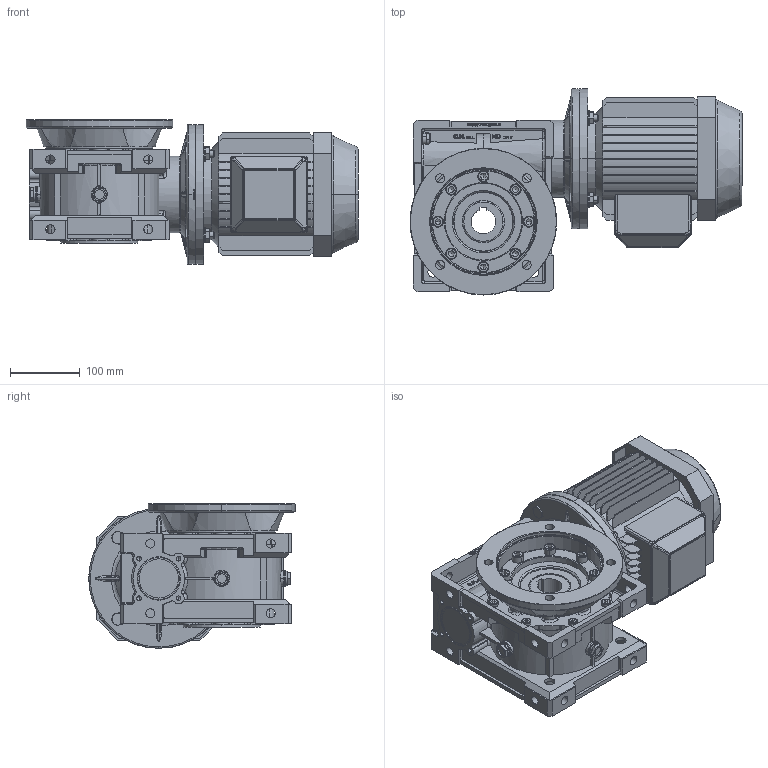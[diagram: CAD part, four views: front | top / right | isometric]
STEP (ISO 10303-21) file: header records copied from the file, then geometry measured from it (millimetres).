
FILE_DESCRIPTION((''),'2;1');
FILE_NAME('F:\Ghirri\3D\MV_V90\stp\MVFU90_B5-90S.stp','2005-06-13T20:26:14',('Administrator'),(''),'Autodesk Inventor 9','Autodesk Inventor 9','');
FILE_SCHEMA(('AUTOMOTIVE_DESIGN { 1 0 10303 214 1 1 1 1 }'));
Length unit declared in the file: millimetre
Products named in the file (19): MVFU90_B5-90S; 4009001-A0; 4009004-A0; TCCE-8X20-ribassata; 4009008-A0; UNI-ISO 6194-1 (4) Tipo4 60 x  85 x  8; Capp-62-7; Guarnizione-tappo-3-8-gas; Tappo-3-8-gas-nero; Paraolio-40-68-7; motori B5 90S; 4011006-D0A; 4011006-D0; UNI 5738  (Filetto fine) M10 x 1.25 x 35; UNI 5589  (Filetto regolare) M10; UNI 6593 11 x 21; FU_MV90; UNI 5931  (Filetto regolare) M 10 x  25
Assembly tree (46 placements, depth 3):
  MVFU90_B5-90S
    4009001-A0
    4009004-A0
    TCCE-8X20-ribassata  x8
    4009008-A0
    UNI-ISO 6194-1 (4) Tipo4 60 x  85 x  8  x2
    Capp-62-7
    Guarnizione-tappo-3-8-gas  x3
    Tappo-3-8-gas-nero  x3
    Paraolio-40-68-7
    motori B5 90S
    4011006-D0A
      4011006-D0
      UNI 5738  (Filetto fine) M10 x 1.25 x 35  x4
      UNI 5589  (Filetto regolare) M10  x4
      UNI 6593 11 x 21  x4
    FU_MV90
      FU_MV90
      UNI 5931  (Filetto regolare) M 10 x  25  x8
Bounding box: 475 x 295 x 207 mm (x, y, z)
Volume: 9426933.1 mm3; surface area: 1144264.5 mm2
Topology: 44 solids, 47 shells, 4283 faces, 11091 edges, 7015 vertices
Faces by surface type: plane 1639, cylinder 1304, bspline 997, cone 261, torus 78, sphere 4
Entity records: 137490 total; most frequent: CARTESIAN_POINT 49214, ORIENTED_EDGE 19136, DIRECTION 17370, EDGE_CURVE 9568, VERTEX_POINT 6171, AXIS2_PLACEMENT_3D 6123, VECTOR 5124, LINE 5124
